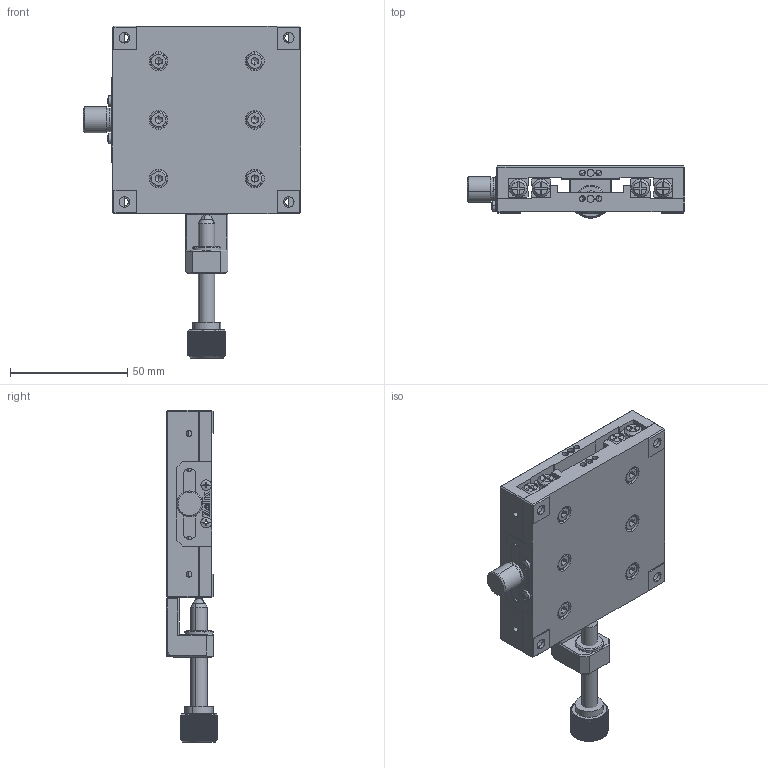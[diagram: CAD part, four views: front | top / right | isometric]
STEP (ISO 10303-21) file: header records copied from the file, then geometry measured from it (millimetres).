
FILE_DESCRIPTION (( 'STEP AP203' ), '1' );
FILE_NAME ('AK25-8020CZ.step', '2019-05-09T02:42:47', ( '' ), ( '' ), 'SwSTEP 2.0', 'SolidWorks 2017', '' );
FILE_SCHEMA (( 'CONFIG_CONTROL_DESIGN' ));
Length unit declared in the file: millimetre
Products named in the file (1): AK25-8020CZ
Bounding box: 92.5 x 22 x 141.5 mm (x, y, z)
Surface area: 48068 mm2 (no closed solid volume)
Topology: 0 solids, 36 shells, 1200 faces, 3580 edges, 2342 vertices
Faces by surface type: plane 690, cylinder 302, cone 174, torus 28, sphere 6
Entity records: 40499 total; most frequent: CARTESIAN_POINT 8817, DIRECTION 6464, ORIENTED_EDGE 6349, EDGE_CURVE 3552, VERTEX_POINT 2342, AXIS2_PLACEMENT_3D 2251, VECTOR 1962, LINE 1962
